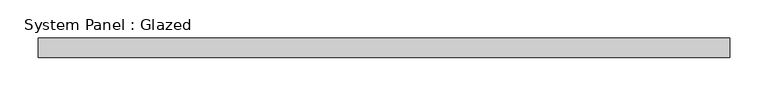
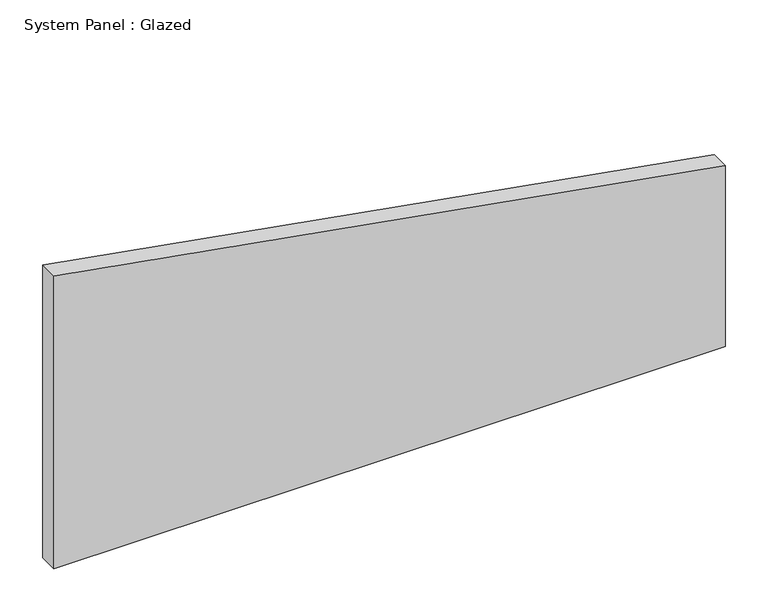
"""IFC4 building model written with IfcOpenShell, lengths in millimetres: plate geometry, System Panel : Glazed."""

from ifc_helpers import new_model, si_unit, frame, origin, place, context, project, spatial, polyline, outline, extrude, source, transform, mapped, element, save


def system_panel_glazed_c8fa0e69(model_context):
    return source(origin(), model_context, "Body", "SweptSolid", [
        extrude(outline(polyline([(0.0, -451.3791667), (0.0, 451.3791667), (257.5881296, 451.3791667), (416.7687809, -451.3791667), (0.0, -451.3791667)])), frame((0.0, -44.45, 0.0), z_axis=(0.0, 1.0, 0.0), x_axis=(0.0, 0.0, 1.0)), (0.0, 0.0, 1.0), 25.4),
    ])


if __name__ == "__main__":
    model = new_model("IFC4")
    model_context = context("Model", 3, world=origin())
    ifc_project = project(units=[si_unit("LENGTHUNIT", "METRE", prefix="MILLI")], contexts=[model_context])
    site = spatial("IfcSite", under=ifc_project)
    building = spatial("IfcBuilding", under=site)
    placement = place(None, origin())
    system_panel_glazed_shape = system_panel_glazed_c8fa0e69(model_context)
    element("IfcPlate", 1, ObjectType="System Panel : Glazed", at=placement, inside=building, context=model_context, shape_type="MappedRepresentation", body=[
        mapped(system_panel_glazed_shape, transform((0.0, 0.0, 0.0), x_axis=(1.0, 0.0, 0.0), y_axis=(0.0, 1.0, 0.0), z_axis=(0.0, 0.0, 1.0))),
    ])
    save(model, "model.ifc")
